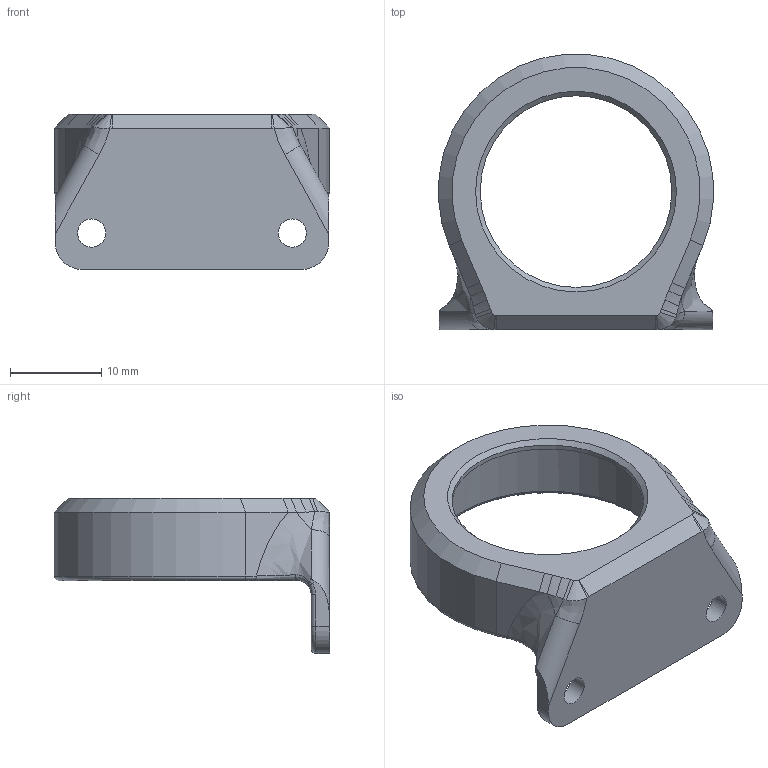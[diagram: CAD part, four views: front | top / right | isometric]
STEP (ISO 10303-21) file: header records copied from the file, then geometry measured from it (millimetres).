
FILE_DESCRIPTION(('STEP AP242'), '1');
FILE_NAME('ﾊ瑕', '', ('UNSPECIFIED'), ('UNSPECIFIED'), 'C3D Converter', 'C3D Toolkit', '');
FILE_SCHEMA(('AP242_MANAGED_MODEL_BASED_3D_ENGINEERING_MIM_LF { 1 0 10303 442 1 1 4 }'));
Length unit declared in the file: millimetre
Products named in the file (1): Кулак
Bounding box: 30.15 x 30.14 x 17 mm (x, y, z)
Volume: 2545.5 mm3; surface area: 2837.9 mm2
Topology: 1 solids, 1 shells, 69 faces, 167 edges, 96 vertices
Faces by surface type: bspline 23, cylinder 18, plane 18, torus 6, sphere 2, cone 2
Full cylindrical faces by diameter (mm): 3.1 x2, 21 x1, 26.2 x1
Entity records: 3392 total; most frequent: CARTESIAN_POINT 1951, ORIENTED_EDGE 316, DIRECTION 232, EDGE_CURVE 158, VERTEX_POINT 96, AXIS2_PLACEMENT_3D 91, EDGE_LOOP 80, FACE_BOUND 71
